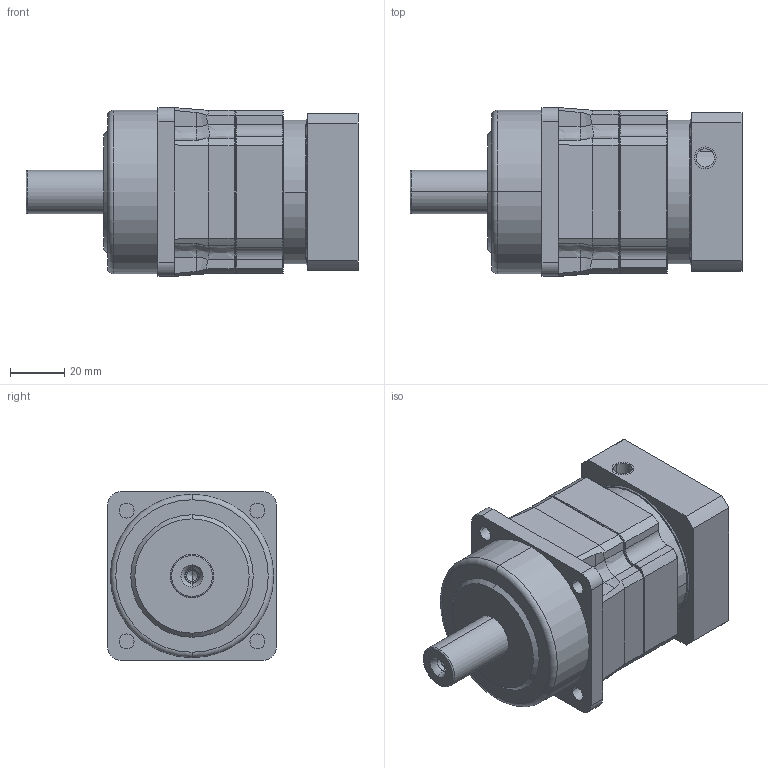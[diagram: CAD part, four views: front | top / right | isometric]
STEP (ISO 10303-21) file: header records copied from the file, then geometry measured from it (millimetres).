
FILE_DESCRIPTION((''),'2;1');
FILE_NAME('AF0601-P0403202201_ASM','2022-08-30T',('Administrator'),(''),'PRO/ENGINEER BY PARAMETRIC TECHNOLOGY CORPORATION, 2015240','PRO/ENGINEER BY PARAMETRIC TECHNOLOGY CORPORATION, 2015240','');
FILE_SCHEMA(('CONFIG_CONTROL_DESIGN'));
Length unit declared in the file: millimetre
Products named in the file (6): P1301200001_D; AF060; AB-INPUTSHAFT-2; AF0601_ASM; P0403202201-0006; AF0601-P0403202201_ASM
Assembly tree (5 placements, depth 3):
  AF0601-P0403202201_ASM
    AF0601_ASM
      P1301200001_D
      AF060
      AB-INPUTSHAFT-2
    P0403202201-0006
Bounding box: 122 x 62 x 62 mm (x, y, z)
Volume: 262954.9 mm3; surface area: 53465.8 mm2
Topology: 4 solids, 10 shells, 317 faces, 756 edges, 461 vertices
Faces by surface type: cylinder 121, plane 106, cone 38, bspline 32, torus 20
Entity records: 10360 total; most frequent: CARTESIAN_POINT 2923, DIRECTION 1555, ORIENTED_EDGE 1466, EDGE_CURVE 746, AXIS2_PLACEMENT_3D 611, VERTEX_POINT 461, EDGE_LOOP 371, VECTOR 333
